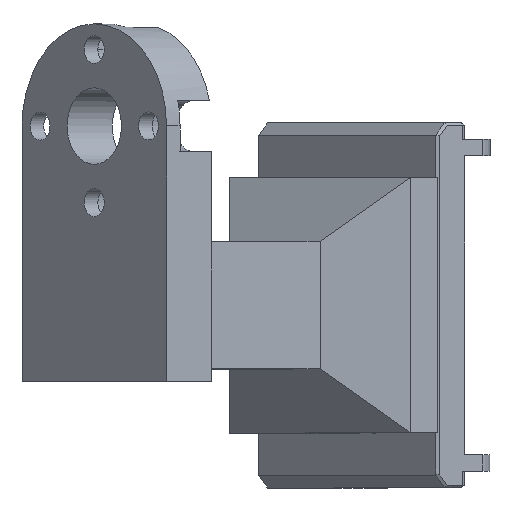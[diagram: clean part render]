
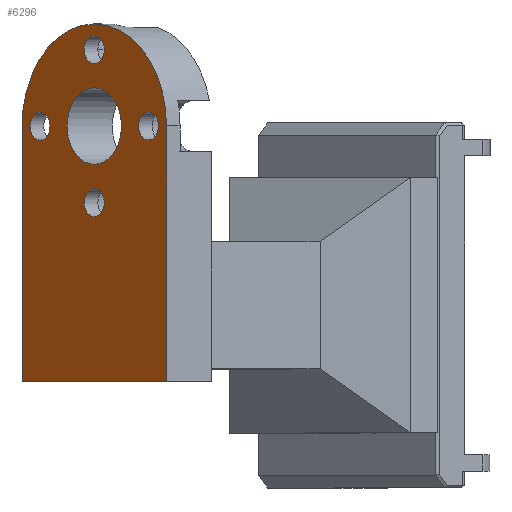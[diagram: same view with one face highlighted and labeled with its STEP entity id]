
A CAD part, top view. The second image highlights one B-rep face of the part: STEP entity #6296.
In plain terms, the highlighted planar face has unit normal (-0.707, 0, 0.707) as drawn and (0, 0, -1) by its records, which use the part's own axes.
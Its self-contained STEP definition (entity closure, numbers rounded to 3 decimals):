
#5 = EDGE_LOOP ( 'NONE', ( #13390, #2968 ) ) ;
#219 = EDGE_CURVE ( 'NONE', #10196, #11222, #365, .T. ) ;
#324 = CARTESIAN_POINT ( 'NONE',  ( 6.771, -1.86, -22. ) ) ;
#347 = CIRCLE ( 'NONE', #9820, 1.1 ) ;
#365 = CIRCLE ( 'NONE', #14344, 8. ) ;
#424 = DIRECTION ( 'NONE',  ( 1., 0., 0. ) ) ;
#511 = AXIS2_PLACEMENT_3D ( 'NONE', #14777, #1712, #3902 ) ;
#592 = DIRECTION ( 'NONE',  ( 1., 0., 0. ) ) ;
#733 = CARTESIAN_POINT ( 'NONE',  ( 6.771, 6.14, -22. ) ) ;
#830 = CARTESIAN_POINT ( 'NONE',  ( 7.871, -7.86, -22. ) ) ;
#838 = DIRECTION ( 'NONE',  ( 1., 0., 0. ) ) ;
#1140 = CIRCLE ( 'NONE', #7619, 1.1 ) ;
#1268 = CARTESIAN_POINT ( 'NONE',  ( -13.229, -9.86, -22. ) ) ;
#1282 = CARTESIAN_POINT ( 'NONE',  ( 9.771, -1.86, -22. ) ) ;
#1302 = AXIS2_PLACEMENT_3D ( 'NONE', #13257, #2311, #5827 ) ;
#1370 = EDGE_CURVE ( 'NONE', #2123, #2059, #9671, .T. ) ;
#1479 = CARTESIAN_POINT ( 'NONE',  ( 6.771, 4.14, -22. ) ) ;
#1499 = DIRECTION ( 'NONE',  ( 0., 0., 1. ) ) ;
#1518 = EDGE_CURVE ( 'NONE', #4010, #12289, #13378, .T. ) ;
#1620 = CARTESIAN_POINT ( 'NONE',  ( -0.329, -1.86, -22. ) ) ;
#1643 = CARTESIAN_POINT ( 'NONE',  ( 13.871, -1.86, -22. ) ) ;
#1712 = DIRECTION ( 'NONE',  ( 0., 0., 1. ) ) ;
#1789 = FACE_BOUND ( 'NONE', #8549, .T. ) ;
#2026 = VERTEX_POINT ( 'NONE', #6911 ) ;
#2030 = ORIENTED_EDGE ( 'NONE', *, *, #15007, .T. ) ;
#2059 = VERTEX_POINT ( 'NONE', #1268 ) ;
#2123 = VERTEX_POINT ( 'NONE', #5086 ) ;
#2124 = AXIS2_PLACEMENT_3D ( 'NONE', #3878, #7487, #5051 ) ;
#2250 = DIRECTION ( 'NONE',  ( 1., 0., 0. ) ) ;
#2311 = DIRECTION ( 'NONE',  ( 0., 0., 1. ) ) ;
#2710 = CARTESIAN_POINT ( 'NONE',  ( 7.871, 4.14, -22. ) ) ;
#2968 = ORIENTED_EDGE ( 'NONE', *, *, #9748, .T. ) ;
#3087 = EDGE_LOOP ( 'NONE', ( #12928, #2030 ) ) ;
#3246 = FACE_OUTER_BOUND ( 'NONE', #9293, .T. ) ;
#3479 = EDGE_LOOP ( 'NONE', ( #9885, #3998 ) ) ;
#3660 = ORIENTED_EDGE ( 'NONE', *, *, #4961, .F. ) ;
#3868 = CARTESIAN_POINT ( 'NONE',  ( -13.229, 6.14, -22. ) ) ;
#3878 = CARTESIAN_POINT ( 'NONE',  ( 6.771, -1.86, -22. ) ) ;
#3902 = DIRECTION ( 'NONE',  ( 1., 0., 0. ) ) ;
#3997 = CARTESIAN_POINT ( 'NONE',  ( -13.229, -9.86, -22. ) ) ;
#3998 = ORIENTED_EDGE ( 'NONE', *, *, #6170, .T. ) ;
#4010 = VERTEX_POINT ( 'NONE', #11556 ) ;
#4126 = AXIS2_PLACEMENT_3D ( 'NONE', #6334, #11177, #11328 ) ;
#4172 = VECTOR ( 'NONE', #15075, 1000. ) ;
#4431 = FACE_BOUND ( 'NONE', #10478, .T. ) ;
#4488 = CARTESIAN_POINT ( 'NONE',  ( 1.871, -1.86, -22. ) ) ;
#4623 = AXIS2_PLACEMENT_3D ( 'NONE', #9375, #9294, #13206 ) ;
#4961 = EDGE_CURVE ( 'NONE', #11222, #2123, #5280, .T. ) ;
#5040 = AXIS2_PLACEMENT_3D ( 'NONE', #12423, #9912, #14845 ) ;
#5051 = DIRECTION ( 'NONE',  ( 1., 0., 0. ) ) ;
#5086 = CARTESIAN_POINT ( 'NONE',  ( -13.229, 6.14, -22. ) ) ;
#5280 = LINE ( 'NONE', #13906, #4172 ) ;
#5328 = ORIENTED_EDGE ( 'NONE', *, *, #15098, .T. ) ;
#5370 = AXIS2_PLACEMENT_3D ( 'NONE', #11219, #12559, #592 ) ;
#5383 = FACE_BOUND ( 'NONE', #5, .T. ) ;
#5536 = VECTOR ( 'NONE', #424, 1000. ) ;
#5753 = AXIS2_PLACEMENT_3D ( 'NONE', #324, #6942, #2250 ) ;
#5786 = CARTESIAN_POINT ( 'NONE',  ( 11.671, -1.86, -22. ) ) ;
#5827 = DIRECTION ( 'NONE',  ( 1., 0., 0. ) ) ;
#6170 = EDGE_CURVE ( 'NONE', #10223, #11736, #7747, .T. ) ;
#6255 = DIRECTION ( 'NONE',  ( 0., 0., 1. ) ) ;
#6296 = ADVANCED_FACE ( 'NONE', ( #3246, #1789, #5383, #10161, #14944, #4431 ), #9206, .F. ) ;
#6334 = CARTESIAN_POINT ( 'NONE',  ( 6.771, -7.86, -22. ) ) ;
#6898 = VERTEX_POINT ( 'NONE', #1282 ) ;
#6911 = CARTESIAN_POINT ( 'NONE',  ( 3.771, -1.86, -22. ) ) ;
#6942 = DIRECTION ( 'NONE',  ( 0., 0., 1. ) ) ;
#7129 = CIRCLE ( 'NONE', #4623, 1.1 ) ;
#7487 = DIRECTION ( 'NONE',  ( 0., 0., 1. ) ) ;
#7619 = AXIS2_PLACEMENT_3D ( 'NONE', #12386, #1499, #14878 ) ;
#7747 = CIRCLE ( 'NONE', #511, 1.1 ) ;
#7782 = EDGE_CURVE ( 'NONE', #2026, #6898, #8775, .T. ) ;
#7883 = DIRECTION ( 'NONE',  ( 0., 0., 1. ) ) ;
#8196 = EDGE_CURVE ( 'NONE', #2059, #10196, #11126, .T. ) ;
#8509 = ORIENTED_EDGE ( 'NONE', *, *, #1370, .F. ) ;
#8549 = EDGE_LOOP ( 'NONE', ( #14966, #9767 ) ) ;
#8775 = CIRCLE ( 'NONE', #5040, 3. ) ;
#9040 = EDGE_CURVE ( 'NONE', #10622, #9537, #347, .T. ) ;
#9206 = PLANE ( 'NONE',  #5753 ) ;
#9293 = EDGE_LOOP ( 'NONE', ( #14993, #12206, #8509, #3660 ) ) ;
#9294 = DIRECTION ( 'NONE',  ( 0., 0., 1. ) ) ;
#9375 = CARTESIAN_POINT ( 'NONE',  ( 12.771, -1.86, -22. ) ) ;
#9504 = DIRECTION ( 'NONE',  ( 1., 0., 0. ) ) ;
#9537 = VERTEX_POINT ( 'NONE', #4488 ) ;
#9661 = CARTESIAN_POINT ( 'NONE',  ( 6.771, -1.86, -22. ) ) ;
#9671 = LINE ( 'NONE', #3868, #13136 ) ;
#9748 = EDGE_CURVE ( 'NONE', #9537, #10622, #15047, .T. ) ;
#9767 = ORIENTED_EDGE ( 'NONE', *, *, #14214, .T. ) ;
#9820 = AXIS2_PLACEMENT_3D ( 'NONE', #11549, #7883, #838 ) ;
#9885 = ORIENTED_EDGE ( 'NONE', *, *, #14175, .T. ) ;
#9912 = DIRECTION ( 'NONE',  ( 0., 0., 1. ) ) ;
#9935 = CARTESIAN_POINT ( 'NONE',  ( 6.771, -9.86, -22. ) ) ;
#9993 = ORIENTED_EDGE ( 'NONE', *, *, #14580, .T. ) ;
#10161 = FACE_BOUND ( 'NONE', #3087, .T. ) ;
#10196 = VERTEX_POINT ( 'NONE', #9935 ) ;
#10223 = VERTEX_POINT ( 'NONE', #1643 ) ;
#10478 = EDGE_LOOP ( 'NONE', ( #9993, #5328 ) ) ;
#10622 = VERTEX_POINT ( 'NONE', #1620 ) ;
#10906 = DIRECTION ( 'NONE',  ( 0., 0., 1. ) ) ;
#11126 = LINE ( 'NONE', #3997, #5536 ) ;
#11177 = DIRECTION ( 'NONE',  ( 0., 0., 1. ) ) ;
#11219 = CARTESIAN_POINT ( 'NONE',  ( 6.771, -7.86, -22. ) ) ;
#11222 = VERTEX_POINT ( 'NONE', #733 ) ;
#11328 = DIRECTION ( 'NONE',  ( 1., 0., 0. ) ) ;
#11549 = CARTESIAN_POINT ( 'NONE',  ( 0.771, -1.86, -22. ) ) ;
#11556 = CARTESIAN_POINT ( 'NONE',  ( 5.671, -7.86, -22. ) ) ;
#11736 = VERTEX_POINT ( 'NONE', #5786 ) ;
#11830 = CARTESIAN_POINT ( 'NONE',  ( 5.671, 4.14, -22. ) ) ;
#12206 = ORIENTED_EDGE ( 'NONE', *, *, #8196, .F. ) ;
#12250 = DIRECTION ( 'NONE',  ( 0., -1., 0. ) ) ;
#12289 = VERTEX_POINT ( 'NONE', #830 ) ;
#12386 = CARTESIAN_POINT ( 'NONE',  ( 6.771, 4.14, -22. ) ) ;
#12387 = CIRCLE ( 'NONE', #4126, 1.1 ) ;
#12423 = CARTESIAN_POINT ( 'NONE',  ( 6.771, -1.86, -22. ) ) ;
#12559 = DIRECTION ( 'NONE',  ( 0., 0., 1. ) ) ;
#12928 = ORIENTED_EDGE ( 'NONE', *, *, #1518, .T. ) ;
#13136 = VECTOR ( 'NONE', #12250, 1000. ) ;
#13206 = DIRECTION ( 'NONE',  ( 1., 0., 0. ) ) ;
#13257 = CARTESIAN_POINT ( 'NONE',  ( 0.771, -1.86, -22. ) ) ;
#13378 = CIRCLE ( 'NONE', #5370, 1.1 ) ;
#13383 = CIRCLE ( 'NONE', #13888, 1.1 ) ;
#13390 = ORIENTED_EDGE ( 'NONE', *, *, #9040, .T. ) ;
#13756 = DIRECTION ( 'NONE',  ( 1., 0., 0. ) ) ;
#13888 = AXIS2_PLACEMENT_3D ( 'NONE', #1479, #6255, #13756 ) ;
#13906 = CARTESIAN_POINT ( 'NONE',  ( 6.771, 6.14, -22. ) ) ;
#14175 = EDGE_CURVE ( 'NONE', #11736, #10223, #7129, .T. ) ;
#14214 = EDGE_CURVE ( 'NONE', #6898, #2026, #15373, .T. ) ;
#14344 = AXIS2_PLACEMENT_3D ( 'NONE', #9661, #10906, #9504 ) ;
#14580 = EDGE_CURVE ( 'NONE', #14893, #15349, #1140, .T. ) ;
#14777 = CARTESIAN_POINT ( 'NONE',  ( 12.771, -1.86, -22. ) ) ;
#14845 = DIRECTION ( 'NONE',  ( 1., 0., 0. ) ) ;
#14878 = DIRECTION ( 'NONE',  ( 1., 0., 0. ) ) ;
#14893 = VERTEX_POINT ( 'NONE', #11830 ) ;
#14944 = FACE_BOUND ( 'NONE', #3479, .T. ) ;
#14966 = ORIENTED_EDGE ( 'NONE', *, *, #7782, .T. ) ;
#14993 = ORIENTED_EDGE ( 'NONE', *, *, #219, .F. ) ;
#15007 = EDGE_CURVE ( 'NONE', #12289, #4010, #12387, .T. ) ;
#15047 = CIRCLE ( 'NONE', #1302, 1.1 ) ;
#15075 = DIRECTION ( 'NONE',  ( -1., 0., 0. ) ) ;
#15098 = EDGE_CURVE ( 'NONE', #15349, #14893, #13383, .T. ) ;
#15349 = VERTEX_POINT ( 'NONE', #2710 ) ;
#15373 = CIRCLE ( 'NONE', #2124, 3. ) ;
